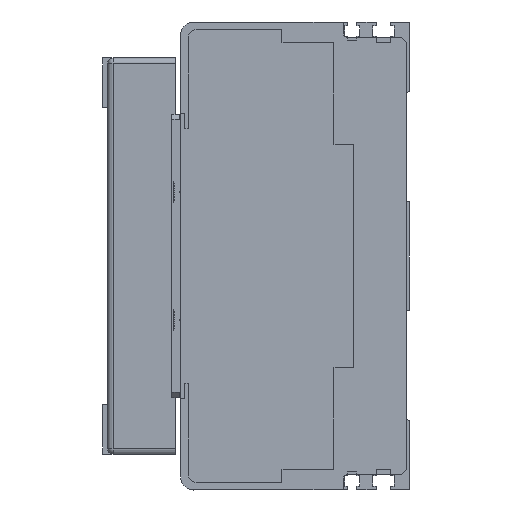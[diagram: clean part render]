
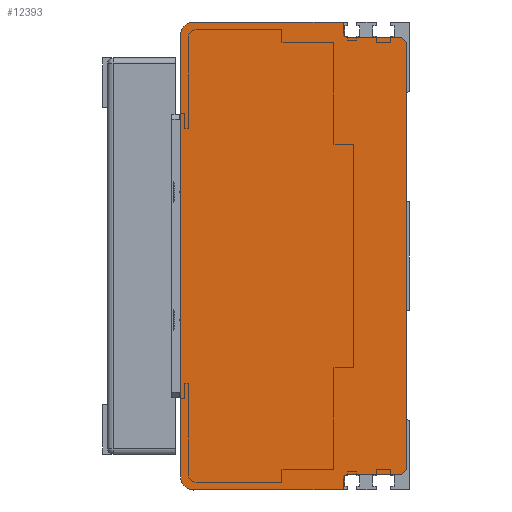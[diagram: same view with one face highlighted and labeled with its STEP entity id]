
A CAD part, left-side view. The second image highlights one B-rep face of the part: STEP entity #12393.
In plain terms, the highlighted planar face has unit normal (-1, 0, 0) as drawn and (0, 0, -1) by its records, which use the part's own axes.
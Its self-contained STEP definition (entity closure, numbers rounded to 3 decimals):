
#933=CIRCLE('',#13236,2.);
#934=CIRCLE('',#13237,5.);
#935=CIRCLE('',#13238,5.);
#936=CIRCLE('',#13239,2.);
#1236=FACE_OUTER_BOUND('',#1992,.T.);
#1992=EDGE_LOOP('',(#8408,#8409,#8410,#8411,#8412,#8413,#8414,#8415,#8416,
#8417,#8418,#8419,#8420,#8421));
#2877=LINE('',#17408,#4050);
#2878=LINE('',#17410,#4051);
#2879=LINE('',#17414,#4052);
#2880=LINE('',#17416,#4053);
#2881=LINE('',#17420,#4054);
#2882=LINE('',#17424,#4055);
#2883=LINE('',#17426,#4056);
#2884=LINE('',#17430,#4057);
#2885=LINE('',#17432,#4058);
#2886=LINE('',#17433,#4059);
#4050=VECTOR('',#14333,2.828);
#4051=VECTOR('',#14334,20.5);
#4052=VECTOR('',#14337,4.);
#4053=VECTOR('',#14338,57.5);
#4054=VECTOR('',#14341,170.);
#4055=VECTOR('',#14344,57.5);
#4056=VECTOR('',#14345,4.);
#4057=VECTOR('',#14348,20.5);
#4058=VECTOR('',#14349,2.828);
#4059=VECTOR('',#14350,164.);
#5251=VERTEX_POINT('',#17406);
#5252=VERTEX_POINT('',#17407);
#5253=VERTEX_POINT('',#17409);
#5254=VERTEX_POINT('',#17411);
#5255=VERTEX_POINT('',#17413);
#5256=VERTEX_POINT('',#17415);
#5257=VERTEX_POINT('',#17417);
#5258=VERTEX_POINT('',#17419);
#5259=VERTEX_POINT('',#17421);
#5260=VERTEX_POINT('',#17423);
#5261=VERTEX_POINT('',#17425);
#5262=VERTEX_POINT('',#17427);
#5263=VERTEX_POINT('',#17429);
#5264=VERTEX_POINT('',#17431);
#6517=EDGE_CURVE('',#5251,#5252,#2877,.T.);
#6518=EDGE_CURVE('',#5251,#5253,#2878,.T.);
#6519=EDGE_CURVE('',#5254,#5253,#933,.T.);
#6520=EDGE_CURVE('',#5254,#5255,#2879,.T.);
#6521=EDGE_CURVE('',#5255,#5256,#2880,.T.);
#6522=EDGE_CURVE('',#5256,#5257,#934,.T.);
#6523=EDGE_CURVE('',#5257,#5258,#2881,.T.);
#6524=EDGE_CURVE('',#5258,#5259,#935,.T.);
#6525=EDGE_CURVE('',#5259,#5260,#2882,.T.);
#6526=EDGE_CURVE('',#5260,#5261,#2883,.T.);
#6527=EDGE_CURVE('',#5262,#5261,#936,.T.);
#6528=EDGE_CURVE('',#5262,#5263,#2884,.T.);
#6529=EDGE_CURVE('',#5264,#5263,#2885,.T.);
#6530=EDGE_CURVE('',#5264,#5252,#2886,.T.);
#8408=ORIENTED_EDGE('',*,*,#6517,.F.);
#8409=ORIENTED_EDGE('',*,*,#6518,.T.);
#8410=ORIENTED_EDGE('',*,*,#6519,.F.);
#8411=ORIENTED_EDGE('',*,*,#6520,.T.);
#8412=ORIENTED_EDGE('',*,*,#6521,.T.);
#8413=ORIENTED_EDGE('',*,*,#6522,.T.);
#8414=ORIENTED_EDGE('',*,*,#6523,.T.);
#8415=ORIENTED_EDGE('',*,*,#6524,.T.);
#8416=ORIENTED_EDGE('',*,*,#6525,.T.);
#8417=ORIENTED_EDGE('',*,*,#6526,.T.);
#8418=ORIENTED_EDGE('',*,*,#6527,.F.);
#8419=ORIENTED_EDGE('',*,*,#6528,.T.);
#8420=ORIENTED_EDGE('',*,*,#6529,.F.);
#8421=ORIENTED_EDGE('',*,*,#6530,.T.);
#11952=PLANE('',#13235);
#12393=ADVANCED_FACE('',(#1236),#11952,.T.);
#13235=AXIS2_PLACEMENT_3D('',#17405,#14331,#14332);
#13236=AXIS2_PLACEMENT_3D('',#17412,#14335,#14336);
#13237=AXIS2_PLACEMENT_3D('',#17418,#14339,#14340);
#13238=AXIS2_PLACEMENT_3D('',#17422,#14342,#14343);
#13239=AXIS2_PLACEMENT_3D('',#17428,#14346,#14347);
#14331=DIRECTION('center_axis',(0.,0.,
-1.));
#14332=DIRECTION('ref_axis',(0.,-1.,0.));
#14333=DIRECTION('',(0.707,-0.707,0.));
#14334=DIRECTION('',(0.,1.,0.));
#14335=DIRECTION('center_axis',(0.,0.,
-1.));
#14336=DIRECTION('ref_axis',(0.707,0.707,0.));
#14337=DIRECTION('',(-1.,0.,0.));
#14338=DIRECTION('',(0.,1.,0.));
#14339=DIRECTION('center_axis',(0.,0.,
-1.));
#14340=DIRECTION('ref_axis',(-1.,0.,0.));
#14341=DIRECTION('',(1.,0.,0.));
#14342=DIRECTION('center_axis',(0.,0.,
-1.));
#14343=DIRECTION('ref_axis',(0.,1.,0.));
#14344=DIRECTION('',(0.,-1.,0.));
#14345=DIRECTION('',(-1.,0.,0.));
#14346=DIRECTION('center_axis',(0.,0.,
-1.));
#14347=DIRECTION('ref_axis',(-0.707,0.707,0.));
#14348=DIRECTION('',(0.,-1.,0.));
#14349=DIRECTION('',(0.707,0.707,0.));
#14350=DIRECTION('',(-1.,0.,0.));
#17405=CARTESIAN_POINT('Origin',(317.669,46.746,-806.483));
#17406=CARTESIAN_POINT('',(-91.,-80.,-806.483));
#17407=CARTESIAN_POINT('',(-89.,-82.,-806.483));
#17408=CARTESIAN_POINT('',(-20.019,-150.981,-806.483));
#17409=CARTESIAN_POINT('',(-91.,-59.5,-806.483));
#17410=CARTESIAN_POINT('',(-91.,-17.627,-806.483));
#17411=CARTESIAN_POINT('',(-93.,-57.5,-806.483));
#17412=CARTESIAN_POINT('Origin',(-93.,-59.5,-806.483));
#17413=CARTESIAN_POINT('',(-97.,-57.5,-806.483));
#17414=CARTESIAN_POINT('',(-91.,-57.5,-806.483));
#17415=CARTESIAN_POINT('',(-97.,0.,-806.483));
#17416=CARTESIAN_POINT('',(-97.,-57.5,-806.483));
#17417=CARTESIAN_POINT('',(-92.,5.,-806.483));
#17418=CARTESIAN_POINT('Origin',(-92.,0.,
-806.483));
#17419=CARTESIAN_POINT('',(78.,5.,-806.483));
#17420=CARTESIAN_POINT('',(-92.,5.,-806.483));
#17421=CARTESIAN_POINT('',(83.,0.,-806.483));
#17422=CARTESIAN_POINT('Origin',(78.,0.,
-806.483));
#17423=CARTESIAN_POINT('',(83.,-57.5,-806.483));
#17424=CARTESIAN_POINT('',(83.,0.,-806.483));
#17425=CARTESIAN_POINT('',(79.,-57.5,-806.483));
#17426=CARTESIAN_POINT('',(83.,-57.5,-806.483));
#17427=CARTESIAN_POINT('',(77.,-59.5,-806.483));
#17428=CARTESIAN_POINT('Origin',(79.,-59.5,-806.483));
#17429=CARTESIAN_POINT('',(77.,-80.,-806.483));
#17430=CARTESIAN_POINT('',(77.,-57.5,-806.483));
#17431=CARTESIAN_POINT('',(75.,-82.,-806.483));
#17432=CARTESIAN_POINT('',(168.354,11.354,-806.483));
#17433=CARTESIAN_POINT('',(81.,-82.,-806.483));
